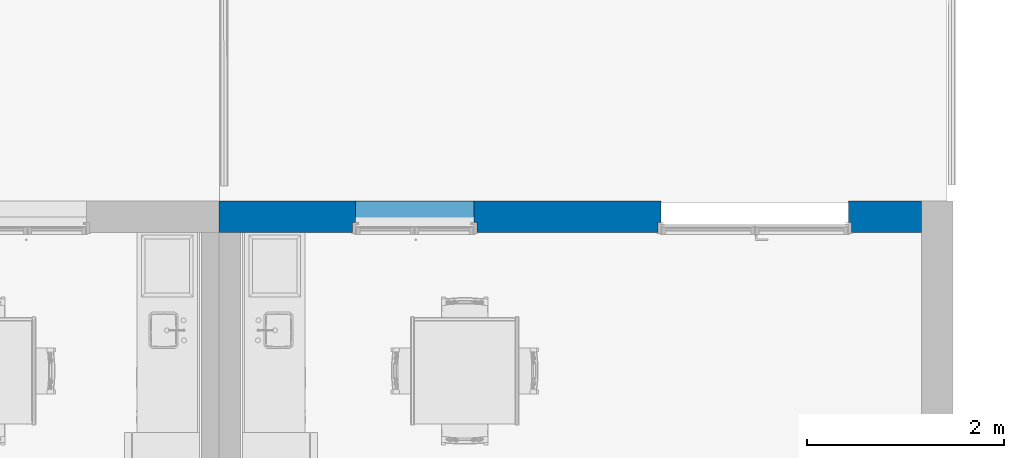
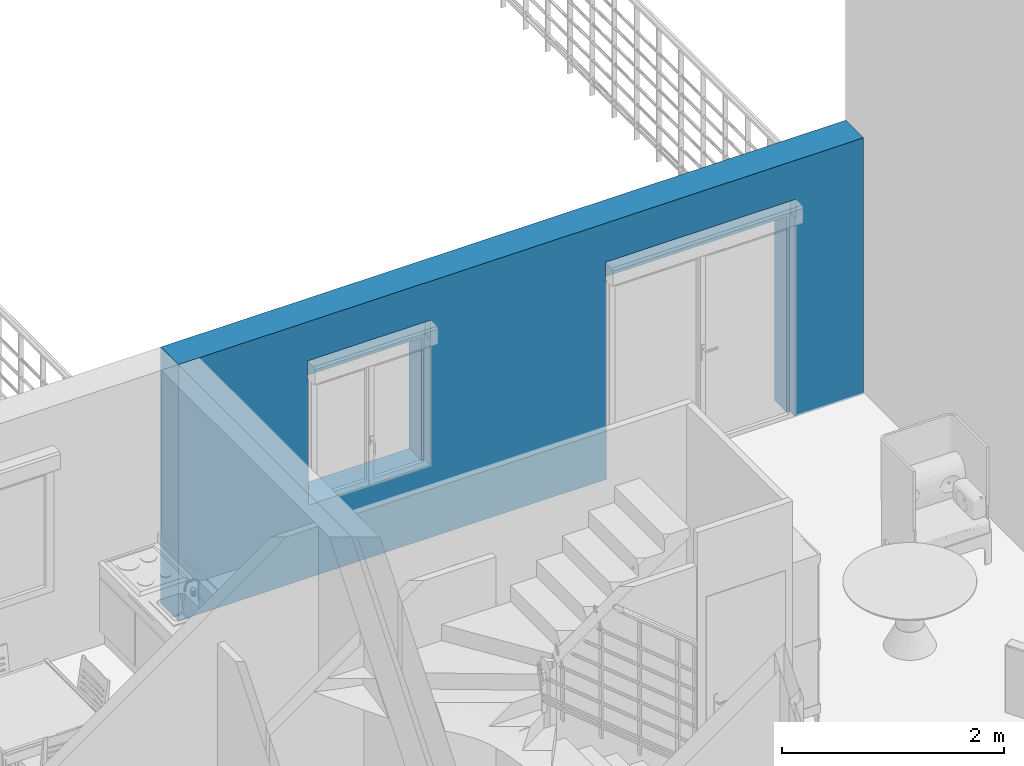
# One storey, part 23 of 30: 1 wall, 2 openings.
"""IFC2X3 building model written with IfcOpenShell, lengths in metres."""

import ifcopenshell
import ifcopenshell.guid

model = None  # the IFC model being written
_history = None  # IfcOwnerHistory: only IFC2X3 demands one
_inside = {}  # id of a spatial element -> (the spatial element, [elements in it])
_under = {}  # id of a project, library or spatial element -> (it, [spatial elements below it])
_declared = {}  # id of a project -> (the project, [libraries it declares])
_typed = {}  # id of a type object -> (the type object, [elements of that type])
_made_of = {}  # id of a material, layer set ... -> (it, [elements and type objects made of it])


def new_model(schema):
    """Start an empty IFC model of exactly this schema.

    Asked for "IFC4X3", IfcOpenShell would pick the latest addendum, in which some entities
    have other attributes; the version numbers below select the first issue.
    IFC2X3 requires an IfcOwnerHistory on every rooted entity: one is made here for all.
    """
    global model, _history
    if schema == "IFC4X3":
        model = ifcopenshell.file(schema_version=(4, 3, 0, 0))
    else:
        model = ifcopenshell.file(schema=schema)
    _inside.clear()
    _under.clear()
    _declared.clear()
    _typed.clear()
    _made_of.clear()
    _history = None
    if model.schema == "IFC2X3":
        org = make("IfcOrganization", Name="unknown")
        user = make(
            "IfcPersonAndOrganization",
            ThePerson=make("IfcPerson", FamilyName="unknown"),
            TheOrganization=org,
        )
        app = make(
            "IfcApplication",
            ApplicationDeveloper=org,
            Version="unknown",
            ApplicationFullName="unknown",
            ApplicationIdentifier="unknown",
        )
        _history = make(
            "IfcOwnerHistory",
            OwningUser=user,
            OwningApplication=app,
            ChangeAction="ADDED",
            CreationDate=0,
        )
    return model


def make(cls, **values):
    """One entity of the class cls with the attributes given. An attribute that is None is left unset."""
    return model.create_entity(
        cls, **{name: value for name, value in values.items() if value is not None}
    )


def entity(cls, *values):
    """Any entity or typed value of the class cls, its attributes in the order of the schema. None: left unset."""
    e = model.create_entity(cls)
    for i, value in enumerate(values):
        if value is not None:
            e[i] = value
    return e


def rooted(cls, **values):
    """An entity with a GlobalId (a new one), such as an element, a storey or a relation."""
    return make(cls, GlobalId=ifcopenshell.guid.new(), OwnerHistory=_history, **values)


def si_unit(unit_type, name, prefix=None):
    """IfcSIUnit, for example si_unit("LENGTHUNIT", "METRE", prefix="MILLI")."""
    return make("IfcSIUnit", UnitType=unit_type, Prefix=prefix, Name=name)


def converted_unit(unit_type, name, factor, base, dimensions=None, offset=None):
    """IfcConversionBasedUnit, such as the inch: factor (a typed value) times the base unit."""
    return make(
        "IfcConversionBasedUnit"
        if offset is None
        else "IfcConversionBasedUnitWithOffset",
        ConversionOffset=offset,
        Dimensions=None
        if dimensions is None
        else entity("IfcDimensionalExponents", *dimensions),
        UnitType=unit_type,
        Name=name,
        ConversionFactor=make(
            "IfcMeasureWithUnit", ValueComponent=factor, UnitComponent=base
        ),
    )


def derived_unit(unit_type, elements):
    """IfcDerivedUnit: a product of units, each with its exponent."""
    return make(
        "IfcDerivedUnit",
        Elements=[
            make("IfcDerivedUnitElement", Unit=unit, Exponent=power)
            for unit, power in elements
        ],
        UnitType=unit_type,
    )


def assignment(units):
    """IfcUnitAssignment: the units of a project."""
    return None if units is None else make("IfcUnitAssignment", Units=units)


def point(xyz):
    """IfcCartesianPoint."""
    return None if xyz is None else make("IfcCartesianPoint", Coordinates=xyz)


def direction(xyz):
    """IfcDirection."""
    return None if xyz is None else make("IfcDirection", DirectionRatios=xyz)


def frame(location, z_axis=None, x_axis=None):
    """IfcAxis2Placement3D, a coordinate frame: its origin and axes. An axis left out is left unset."""
    return make(
        "IfcAxis2Placement3D",
        Location=point(location),
        Axis=direction(z_axis),
        RefDirection=direction(x_axis),
    )


def frame_2d(location, x_axis=None):
    """IfcAxis2Placement2D, a coordinate frame in the plane: its origin and x axis."""
    return make(
        "IfcAxis2Placement2D", Location=point(location), RefDirection=direction(x_axis)
    )


def origin():
    """The frame at (0, 0, 0) with its axes left unset."""
    return frame((0.0, 0.0, 0.0))


def place(relative_to, where):
    """IfcLocalPlacement: puts the frame where relative to a parent placement (None: the world)."""
    return make(
        "IfcLocalPlacement", PlacementRelTo=relative_to, RelativePlacement=where
    )


def context(
    kind, dimensions, precision=None, world=None, true_north=None, identifier=None
):
    """IfcGeometricRepresentationContext, for example the 3D "Model" context."""
    return make(
        "IfcGeometricRepresentationContext",
        ContextIdentifier=identifier,
        ContextType=kind,
        CoordinateSpaceDimension=dimensions,
        Precision=precision,
        WorldCoordinateSystem=world,
        TrueNorth=true_north,
    )


def subcontext(parent, identifier, kind, view, scale=None):
    """IfcGeometricRepresentationSubContext, for example "Body" below "Model"."""
    return make(
        "IfcGeometricRepresentationSubContext",
        ContextIdentifier=identifier,
        ContextType=kind,
        ParentContext=parent,
        TargetScale=scale,
        TargetView=view,
    )


def project(units=None, contexts=None):
    """IfcProject with its units and contexts."""
    return rooted(
        "IfcProject",
        Name="project",
        RepresentationContexts=contexts,
        UnitsInContext=assignment(units),
    )


def spatial(cls, under=None, at=None, **own):
    """A site, building, storey or space (cls), placed at a placement, below another one or the project."""
    s = rooted(cls, ObjectPlacement=at, **own)
    if under is not None:
        _under.setdefault(under.id(), (under, []))[1].append(s)
    return s


def profile(cls, at=None, kind="AREA", **sizes):
    """A parametric profile (cls). Its sizes go by their IFC names, for example OverallWidth=200.0."""
    return make(cls, ProfileType=kind, Position=at, **sizes)


def rectangle(**sizes):
    """IfcRectangleProfileDef."""
    return profile("IfcRectangleProfileDef", **sizes)


def extrude(swept, where, along, depth):
    """IfcExtrudedAreaSolid: the profile swept, set in the frame where, extruded along a direction by depth."""
    return make(
        "IfcExtrudedAreaSolid",
        SweptArea=swept,
        Position=where,
        ExtrudedDirection=direction(along),
        Depth=depth,
    )


def faces_of(points, faces, orient=None, outer=None):
    """IfcFace entities. A face is a list of loops; a loop is a list of indices into points, from 0.

    orient and outer hold one flag for each loop. By default every Orientation is true, the
    first loop of a face is its IfcFaceOuterBound and the others are IfcFaceBound.
    """
    made = []
    for i, loops in enumerate(faces):
        bounds = []
        for j, loop in enumerate(loops):
            is_outer = j == 0 if outer is None else outer[i][j]
            bounds.append(
                make(
                    "IfcFaceOuterBound" if is_outer else "IfcFaceBound",
                    Bound=make("IfcPolyLoop", Polygon=[points[k] for k in loop]),
                    Orientation=True if orient is None else orient[i][j],
                )
            )
        made.append(make("IfcFace", Bounds=bounds))
    return made


def faceted_brep(points, faces, orient=None, outer=None, voids=None):
    """IfcFacetedBrep: a solid bounded by flat faces; with voids (closed shells), ...WithVoids."""
    shared = [point(p) for p in points]
    hull = make("IfcClosedShell", CfsFaces=faces_of(shared, faces, orient, outer))
    if voids is None:
        return make("IfcFacetedBrep", Outer=hull)
    return make(
        "IfcFacetedBrepWithVoids",
        Outer=hull,
        Voids=[
            make(cls, CfsFaces=faces_of(shared, fs, o, b)) for cls, fs, o, b in voids
        ],
    )


def shape(context_of_items, identifier, shape_type, items):
    """IfcShapeRepresentation: the items that make up one representation, for example the "Body"."""
    return make(
        "IfcShapeRepresentation",
        ContextOfItems=context_of_items,
        RepresentationIdentifier=identifier,
        RepresentationType=shape_type,
        Items=items,
    )


def material(Name=None, Category=None):
    """IfcMaterial."""
    return make("IfcMaterial", Name=Name, Category=Category)


def layer(
    of_material, thickness, ventilated=None, Name=None, Category=None, Priority=None
):
    """IfcMaterialLayer: one layer of a wall or slab, of a material (None: an air gap)."""
    return make(
        "IfcMaterialLayer",
        Material=of_material,
        LayerThickness=thickness,
        IsVentilated=ventilated,
        Name=Name,
        Category=Category,
        Priority=Priority,
    )


def layer_set(layers, Name=None):
    """IfcMaterialLayerSet."""
    return make("IfcMaterialLayerSet", MaterialLayers=layers, LayerSetName=Name)


def layer_usage(for_layer_set, set_direction, sense, offset, extent=None):
    """IfcMaterialLayerSetUsage: how a layer set lies in its element."""
    return make(
        "IfcMaterialLayerSetUsage",
        ForLayerSet=for_layer_set,
        LayerSetDirection=set_direction,
        DirectionSense=sense,
        OffsetFromReferenceLine=offset,
        ReferenceExtent=extent,
    )


def made_of(thing, what):
    """Note that an element or type object is made of a material, layer set ...; save() writes the relation."""
    if what is not None:
        _made_of.setdefault(what.id(), (what, []))[1].append(thing)
    return thing


def type_object(cls, material=None, **own):
    """A type object (cls), such as IfcWallType, which elements share."""
    return made_of(rooted(cls, **own), material)


def element(
    cls,
    number,
    at=None,
    inside=None,
    cuts=None,
    type_object=None,
    material=None,
    context=None,
    identifier="Body",
    shape_type=None,
    held_by="IfcProductDefinitionShape",
    body=None,
    shapes=None,
    **own,
):
    """One element of the class cls, such as IfcWall. Its Tag is "e" and its number.

    at: its placement. inside: the storey or other place that contains it. cuts: it is an
    opening in that element (IfcRelVoidsElement). A single representation is given by context,
    identifier, shape_type and body (its items); several are given by shapes. held_by: the class
    of the entity that holds the representations. save() writes the other relations.
    """
    e = rooted(cls, Tag="e%d" % number, ObjectPlacement=at, **own)
    if body is not None:
        shapes = [shape(context, identifier, shape_type, body)]
    if shapes is not None:
        e.Representation = make(held_by, Representations=shapes)
    if inside is not None:
        _inside.setdefault(inside.id(), (inside, []))[1].append(e)
    if cuts is not None:
        rooted(
            "IfcRelVoidsElement", RelatingBuildingElement=cuts, RelatedOpeningElement=e
        )
    if type_object is not None:
        _typed.setdefault(type_object.id(), (type_object, []))[1].append(e)
    return made_of(e, material)


def aggregate(whole, parts):
    """IfcRelAggregates: a whole, such as a stair, and the parts it consists of."""
    return rooted("IfcRelAggregates", RelatingObject=whole, RelatedObjects=parts)


def save(model, path):
    """Write the relations noted so far, then the file.

    IfcRelAggregates (storeys below a building ...), IfcRelContainedInSpatialStructure (elements
    in a storey), IfcRelDefinesByType, IfcRelAssociatesMaterial and IfcRelDeclares: one each for
    every whole, place, type object, material and project.
    """
    for whole, parts in _under.values():
        aggregate(whole, parts)
    for where, things in _inside.values():
        rooted(
            "IfcRelContainedInSpatialStructure",
            RelatedElements=things,
            RelatingStructure=where,
        )
    for kind, things in _typed.values():
        rooted("IfcRelDefinesByType", RelatedObjects=things, RelatingType=kind)
    for what, things in _made_of.values():
        rooted("IfcRelAssociatesMaterial", RelatedObjects=things, RelatingMaterial=what)
    for by, libraries in _declared.values():
        rooted("IfcRelDeclares", RelatingContext=by, RelatedDefinitions=libraries)
    model.write(path)


model = new_model("IFC2X3")

# Units and contexts
model_context = context("Model", 3, precision=1e-05, world=origin(), true_north=direction((6.12303176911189e-17, 1.0)))
body_context = subcontext(model_context, "Body", "Model", "MODEL_VIEW")
ifc_project = project(units=[si_unit("LENGTHUNIT", "METRE"), si_unit("AREAUNIT", "SQUARE_METRE"), si_unit("VOLUMEUNIT", "CUBIC_METRE"), converted_unit("PLANEANGLEUNIT", "DEGREE", entity("IfcRatioMeasure", 0.0174532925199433), si_unit("PLANEANGLEUNIT", "RADIAN"), dimensions=[0, 0, 0, 0, 0, 0, 0]), si_unit("MASSUNIT", "GRAM", prefix="KILO"), derived_unit("MASSDENSITYUNIT", [(si_unit("MASSUNIT", "GRAM", prefix="KILO"), 1), (si_unit("LENGTHUNIT", "METRE"), -3)]), si_unit("TIMEUNIT", "SECOND"), si_unit("FREQUENCYUNIT", "HERTZ"), si_unit("THERMODYNAMICTEMPERATUREUNIT", "DEGREE_CELSIUS"), derived_unit("THERMALTRANSMITTANCEUNIT", [(si_unit("MASSUNIT", "GRAM", prefix="KILO"), 1), (si_unit("THERMODYNAMICTEMPERATUREUNIT", "KELVIN"), -1), (si_unit("TIMEUNIT", "SECOND"), -3)]), derived_unit("VOLUMETRICFLOWRATEUNIT", [(si_unit("LENGTHUNIT", "METRE"), 3), (si_unit("TIMEUNIT", "SECOND"), -1)]), si_unit("ELECTRICCURRENTUNIT", "AMPERE"), si_unit("ELECTRICVOLTAGEUNIT", "VOLT"), si_unit("POWERUNIT", "WATT"), si_unit("FORCEUNIT", "NEWTON", prefix="KILO"), si_unit("ILLUMINANCEUNIT", "LUX"), si_unit("LUMINOUSFLUXUNIT", "LUMEN"), si_unit("LUMINOUSINTENSITYUNIT", "CANDELA"), derived_unit("USERDEFINED", [(si_unit("MASSUNIT", "GRAM", prefix="KILO"), -1), (si_unit("LENGTHUNIT", "METRE"), -2), (si_unit("TIMEUNIT", "SECOND"), 3), (si_unit("LUMINOUSFLUXUNIT", "LUMEN"), 1)]), derived_unit("LINEARVELOCITYUNIT", [(si_unit("LENGTHUNIT", "METRE"), 1), (si_unit("TIMEUNIT", "SECOND"), -1)]), si_unit("PRESSUREUNIT", "PASCAL"), derived_unit("USERDEFINED", [(si_unit("LENGTHUNIT", "METRE"), -2), (si_unit("MASSUNIT", "GRAM", prefix="KILO"), 1), (si_unit("TIMEUNIT", "SECOND"), -2)])], contexts=[model_context])

# Site, building, storey
site_placement = place(None, origin())
site = spatial("IfcSite", under=ifc_project, at=site_placement, Name="Surface", CompositionType="ELEMENT")
building_placement = place(site_placement, origin())
building = spatial("IfcBuilding", under=site, at=building_placement, CompositionType="ELEMENT")
storey_placement = place(building_placement, origin())
storey = spatial("IfcBuildingStorey", under=building, at=storey_placement, Name="Plan des fondations  Maisons 1 et 2", CompositionType="ELEMENT", Elevation=0.0)

# Wall, openings
ifc_material_1 = material(Name="Enduit blanc cassé2")
ifc_layer_1 = layer(ifc_material_1, 0.02)
ifc_material_2 = material(Name="Parpaing")
ifc_layer_2 = layer(ifc_material_2, 0.2)
ifc_material_3 = material(Name="Isolant")
ifc_layer_3 = layer(ifc_material_3, 0.1)
ifc_layer_set = layer_set([ifc_layer_1, ifc_layer_2, ifc_layer_3], Name="Mur de base:Ext. Parpaing 20 + Isolant 10 enduit blanc cassé")
ifc_layer_usage = layer_usage(ifc_layer_set, "AXIS2", "POSITIVE", -0.16)
wall_type = type_object("IfcWallType", Name="Mur de base:Ext. Parpaing 20 + Isolant 10 enduit blanc cassé", PredefinedType="STANDARD", material=ifc_layer_set)
wall_placement = place(building_placement, frame((90.8350487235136, 92.3075239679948, 0.0), z_axis=(0.0, 0.0, 1.0), x_axis=(-1.0, 0.0, 0.0)))
wall = element("IfcWallStandardCase", 1, at=wall_placement, inside=storey, type_object=wall_type, material=ifc_layer_usage, Name="Mur de base:Ext. Parpaing 20 + Isolant 10 enduit blanc cassé", ObjectType="Mur de base:Ext. Parpaing 20 + Isolant 10 enduit blanc cassé", context=body_context, shape_type="SweptSolid", body=[
    extrude(rectangle(XDim=7.12826294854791, YDim=0.319999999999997, at=frame_2d((3.56413147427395, 0.0), x_axis=(-1.0, 0.0))), origin(), (0.0, 0.0, 1.0), 2.82),
])
opening_1_placement = place(wall_placement, frame((2.68218161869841, 0.259999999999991, 0.0), z_axis=(0.0, 0.0, 1.0), x_axis=(-1.0, 0.0, 0.0)))
element("IfcOpeningElement", 2, at=opening_1_placement, cuts=wall, Name="Mur de base:Ext. Parpaing 20 + Isolant 10 enduit blanc cassé", ObjectType="Opening", context=body_context, shape_type="Brep", body=[
    faceted_brep([(1.93997696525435, 0.0, 2.15), (1.93997696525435, 0.0999999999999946, 2.15), (0.0399769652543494, 0.0999999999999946, 2.15), (0.0399769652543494, 0.0, 2.15), (1.93997696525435, 0.720000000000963, 0.0), (1.93997696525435, 0.199999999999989, 0.0), (1.96997696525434, 0.199999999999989, 0.0), (1.96997696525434, 0.0999999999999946, 0.0), (1.93997696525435, 0.0999999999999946, 0.0), (1.93997696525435, 0.0, 0.0), (0.0399769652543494, 0.0, 0.0), (0.0399769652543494, 0.0999999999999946, 0.0), (0.00997696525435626, 0.0999999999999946, 0.0), (0.00997696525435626, 0.199999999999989, 0.0), (0.0399769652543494, 0.199999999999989, 0.0), (0.0399769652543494, 0.720000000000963, 0.0), (1.93997696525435, 0.720000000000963, 2.15), (0.0399769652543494, 0.720000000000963, 2.15), (1.93997696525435, 0.200000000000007, 2.15), (1.96997696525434, 0.0999999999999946, 2.18), (1.97995393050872, 0.0999999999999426, 2.18000000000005), (1.97995393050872, 0.0999999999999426, 2.39000000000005), (0.0, 0.0999999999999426, 2.39000000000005), (0.0, 0.0999999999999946, 2.18000000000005), (0.00997696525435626, 0.0999999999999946, 2.18), (0.00997696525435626, 0.199999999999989, 2.18), (0.0, 0.199999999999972, 2.18000000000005), (0.0, 0.199999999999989, 2.39000000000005), (1.97995393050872, 0.199999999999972, 2.39000000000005), (1.97995393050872, 0.199999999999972, 2.18000000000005), (1.96997696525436, 0.199999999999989, 2.18), (0.0399769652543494, 0.199999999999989, 2.15)], [[[0, 1, 2, 3]], [[4, 5, 6, 7, 8, 9, 10, 11, 12, 13, 14, 15]], [[16, 4, 15, 17]], [[3, 2, 11, 10]], [[3, 10, 9, 0]], [[16, 18, 5, 4]], [[11, 2, 1, 8, 7, 19, 20, 21, 22, 23, 24, 12]], [[12, 24, 25, 13]], [[13, 25, 26, 27, 28, 29, 30, 6, 5, 18, 31, 14]], [[7, 6, 30, 19]], [[26, 23, 22, 27]], [[29, 28, 21, 20]], [[26, 25, 24, 23]], [[22, 21, 28, 27]], [[20, 19, 30, 29]], [[9, 8, 1, 0]], [[15, 14, 31, 17]], [[17, 31, 18, 16]]]),
])
opening_2_placement = place(wall_placement, frame((5.78220465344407, 0.259999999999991, 0.799999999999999), z_axis=(0.0, 0.0, 1.0), x_axis=(-1.0, 0.0, 0.0)))
element("IfcOpeningElement", 3, at=opening_2_placement, cuts=wall, Name="Mur de base:Ext. Parpaing 20 + Isolant 10 enduit blanc cassé", ObjectType="Opening", context=body_context, shape_type="Brep", body=[
    faceted_brep([(1.24, 0.0, 1.35), (1.24, 0.0999999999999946, 1.35), (0.0399999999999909, 0.0999999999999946, 1.35), (0.0399999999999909, 0.0, 1.35), (1.24, 0.720000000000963, 0.0), (1.24, 0.199999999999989, 0.0), (1.26999999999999, 0.199999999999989, 0.0), (1.26999999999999, 0.0999999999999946, 0.0), (1.24, 0.0999999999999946, 0.0), (1.24, 0.0, 0.0), (0.0399999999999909, 0.0, 0.0), (0.0399999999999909, 0.0999999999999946, 0.0), (0.00999999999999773, 0.0999999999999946, 0.0), (0.00999999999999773, 0.199999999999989, 0.0), (0.0399999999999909, 0.199999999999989, 0.0), (0.0399999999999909, 0.720000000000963, 0.0), (1.24, 0.720000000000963, 1.35), (0.0399999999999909, 0.720000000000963, 1.35), (1.24, 0.200000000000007, 1.35), (1.27000000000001, 0.0999999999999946, 1.38), (1.28000000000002, 0.100000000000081, 1.38000000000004), (1.28000000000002, 0.100000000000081, 1.59000000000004), (0.0, 0.100000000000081, 1.59000000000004), (0.0, 0.0999999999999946, 1.38000000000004), (0.00999999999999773, 0.0999999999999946, 1.38), (0.00999999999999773, 0.199999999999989, 1.38), (0.0, 0.200000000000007, 1.38000000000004), (0.0, 0.199999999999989, 1.59000000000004), (1.28000000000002, 0.200000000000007, 1.59000000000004), (1.28000000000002, 0.200000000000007, 1.38000000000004), (1.27000000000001, 0.199999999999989, 1.38), (0.0400000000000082, 0.199999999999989, 1.35)], [[[0, 1, 2, 3]], [[4, 5, 6, 7, 8, 9, 10, 11, 12, 13, 14, 15]], [[16, 4, 15, 17]], [[3, 2, 11, 10]], [[3, 10, 9, 0]], [[16, 18, 5, 4]], [[11, 2, 1, 8, 7, 19, 20, 21, 22, 23, 24, 12]], [[12, 24, 25, 13]], [[13, 25, 26, 27, 28, 29, 30, 6, 5, 18, 31, 14]], [[7, 6, 30, 19]], [[26, 23, 22, 27]], [[29, 28, 21, 20]], [[26, 25, 24, 23]], [[22, 21, 28, 27]], [[20, 19, 30, 29]], [[9, 8, 1, 0]], [[15, 14, 31, 17]], [[17, 31, 18, 16]]]),
])

save(model, "model.ifc")
